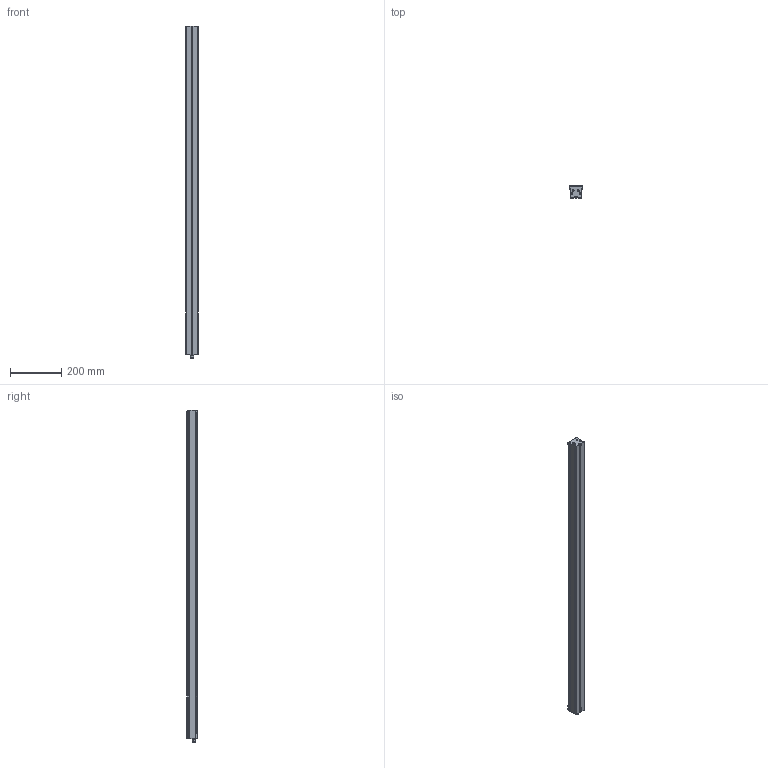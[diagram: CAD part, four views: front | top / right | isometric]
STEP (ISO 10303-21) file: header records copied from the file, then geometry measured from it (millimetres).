
FILE_DESCRIPTION (( 'STEP AP214' ), '1' );
FILE_NAME ('EBAR-HPS-1250-xxx-UN_CLIENT.STEP', '2025-11-18T13:01:16', ( '' ), ( '' ), 'SwSTEP 2.0', 'SolidWorks 2025', '' );
FILE_SCHEMA (( 'AUTOMOTIVE_DESIGN' ));
Length unit declared in the file: millimetre
Products named in the file (3): EBAR-HPS-xxx-xxx-xx_CLIENT - T-Power_1250; M4 T-Slot Nut; EBAR-HPS-1250-xxx-UN_CLIENT
Assembly tree (37 placements, depth 2):
  EBAR-HPS-1250-xxx-UN_CLIENT
    EBAR-HPS-xxx-xxx-xx_CLIENT - T-Power_1250
    M4 T-Slot Nut  x36
Bounding box: 47.63 x 45 x 1295.06 mm (x, y, z)
Volume: 2183530.3 mm3; surface area: 317929.4 mm2
Topology: 37 solids, 37 shells, 1424 faces, 3688 edges, 2428 vertices
Faces by surface type: plane 799, cylinder 371, bspline 140, torus 62, sphere 40, cone 12
Entity records: 29649 total; most frequent: CARTESIAN_POINT 10335, ORIENTED_EDGE 4138, DIRECTION 3640, EDGE_CURVE 2069, VERTEX_POINT 1343, AXIS2_PLACEMENT_3D 1252, LINE 1136, VECTOR 1136
